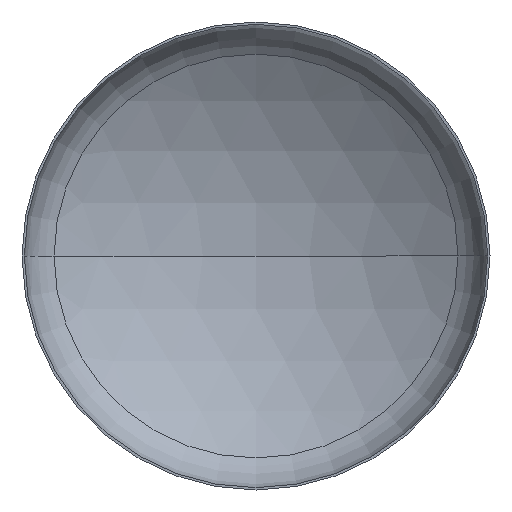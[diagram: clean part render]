
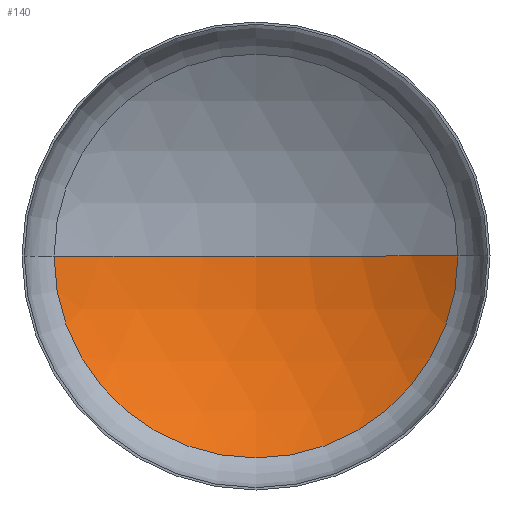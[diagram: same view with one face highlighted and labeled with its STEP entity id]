
A CAD part, front view. The second image highlights one B-rep face of the part: STEP entity #140.
In plain terms, the highlighted spherical face has radius 474 mm.
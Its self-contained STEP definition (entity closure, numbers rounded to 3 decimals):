
#1 = CARTESIAN_POINT ( 'NONE',  ( 0., -325., 0. ) ) ;
#3 = EDGE_CURVE ( 'NONE', #80, #144, #147, .T. ) ;
#20 = ORIENTED_EDGE ( 'NONE', *, *, #332, .F. ) ;
#27 = FACE_OUTER_BOUND ( 'NONE', #114, .T. ) ;
#35 = EDGE_CURVE ( 'NONE', #181, #144, #52, .T. ) ;
#40 = CARTESIAN_POINT ( 'NONE',  ( 0., 149., 0. ) ) ;
#52 = CIRCLE ( 'NONE', #186, 474. ) ;
#56 = CARTESIAN_POINT ( 'NONE',  ( 0., -325., 0. ) ) ;
#73 = CARTESIAN_POINT ( 'NONE',  ( -258.877, 72.063, 0. ) ) ;
#80 = VERTEX_POINT ( 'NONE', #125 ) ;
#83 = CIRCLE ( 'NONE', #137, 258.877 ) ;
#104 = DIRECTION ( 'NONE',  ( 0., 0., 1. ) ) ;
#114 = EDGE_LOOP ( 'NONE', ( #20, #120, #215 ) ) ;
#120 = ORIENTED_EDGE ( 'NONE', *, *, #3, .T. ) ;
#125 = CARTESIAN_POINT ( 'NONE',  ( 258.877, 72.063, 0. ) ) ;
#137 = AXIS2_PLACEMENT_3D ( 'NONE', #240, #341, #364 ) ;
#140 = ADVANCED_FACE ( 'NONE', ( #27 ), #236, .F. ) ;
#144 = VERTEX_POINT ( 'NONE', #40 ) ;
#147 = CIRCLE ( 'NONE', #379, 474. ) ;
#154 = DIRECTION ( 'NONE',  ( 0., 0., -1. ) ) ;
#158 = CARTESIAN_POINT ( 'NONE',  ( 0., -325., 0. ) ) ;
#181 = VERTEX_POINT ( 'NONE', #73 ) ;
#186 = AXIS2_PLACEMENT_3D ( 'NONE', #56, #154, #355 ) ;
#215 = ORIENTED_EDGE ( 'NONE', *, *, #35, .F. ) ;
#229 = DIRECTION ( 'NONE',  ( 1., 0., 0. ) ) ;
#236 = SPHERICAL_SURFACE ( 'NONE', #253, 474. ) ;
#240 = CARTESIAN_POINT ( 'NONE',  ( 0., 72.063, 0. ) ) ;
#253 = AXIS2_PLACEMENT_3D ( 'NONE', #1, #104, #393 ) ;
#319 = DIRECTION ( 'NONE',  ( 0., 0., 1. ) ) ;
#332 = EDGE_CURVE ( 'NONE', #80, #181, #83, .T. ) ;
#341 = DIRECTION ( 'NONE',  ( 0., 1., 0. ) ) ;
#355 = DIRECTION ( 'NONE',  ( -1., 0., 0. ) ) ;
#364 = DIRECTION ( 'NONE',  ( -1., 0., 0. ) ) ;
#379 = AXIS2_PLACEMENT_3D ( 'NONE', #158, #319, #229 ) ;
#393 = DIRECTION ( 'NONE',  ( -1., 0., 0. ) ) ;
